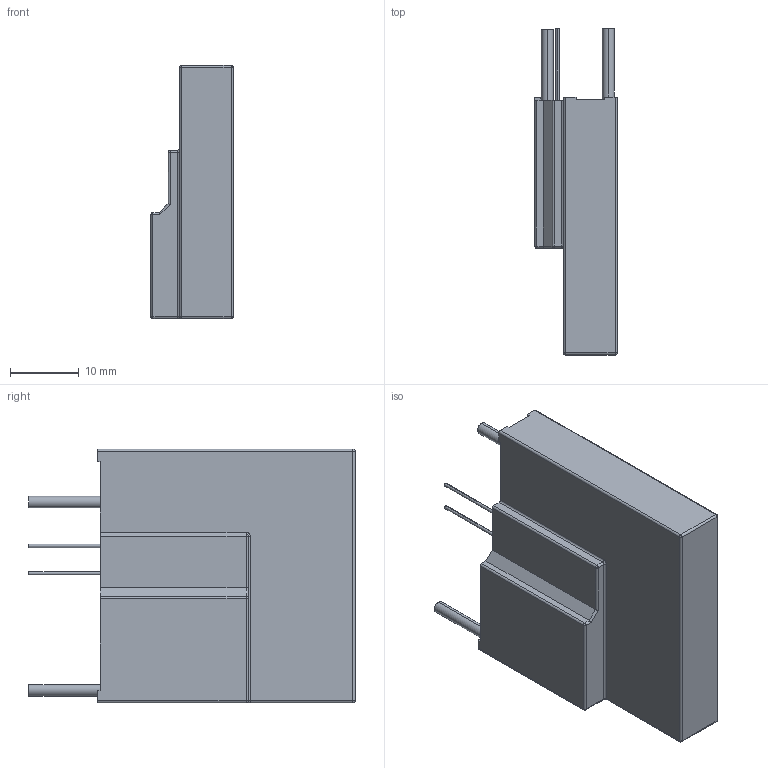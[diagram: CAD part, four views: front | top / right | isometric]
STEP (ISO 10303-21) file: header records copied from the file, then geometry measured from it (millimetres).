
FILE_DESCRIPTION((''),'2;1');
FILE_NAME('TFMOV34S','2020-07-15T13:24:24',('SET-00098'),(''),'CREO PARAMETRIC BY PTC INC, 2018400','CREO PARAMETRIC BY PTC INC, 2018400','');
FILE_SCHEMA(('CONFIG_CONTROL_DESIGN'));
Length unit declared in the file: millimetre
Products named in the file (1): TFMOV34S
Bounding box: 12 x 47.6 x 37 mm (x, y, z)
Volume: 12544.2 mm3; surface area: 4346.8 mm2
Topology: 1 solids, 1 shells, 72 faces, 171 edges, 105 vertices
Faces by surface type: plane 36, cylinder 27, sphere 7, torus 2
Entity records: 2099 total; most frequent: DIRECTION 365, CARTESIAN_POINT 362, ORIENTED_EDGE 342, EDGE_CURVE 171, AXIS2_PLACEMENT_3D 124, VECTOR 117, LINE 117, VERTEX_POINT 105
